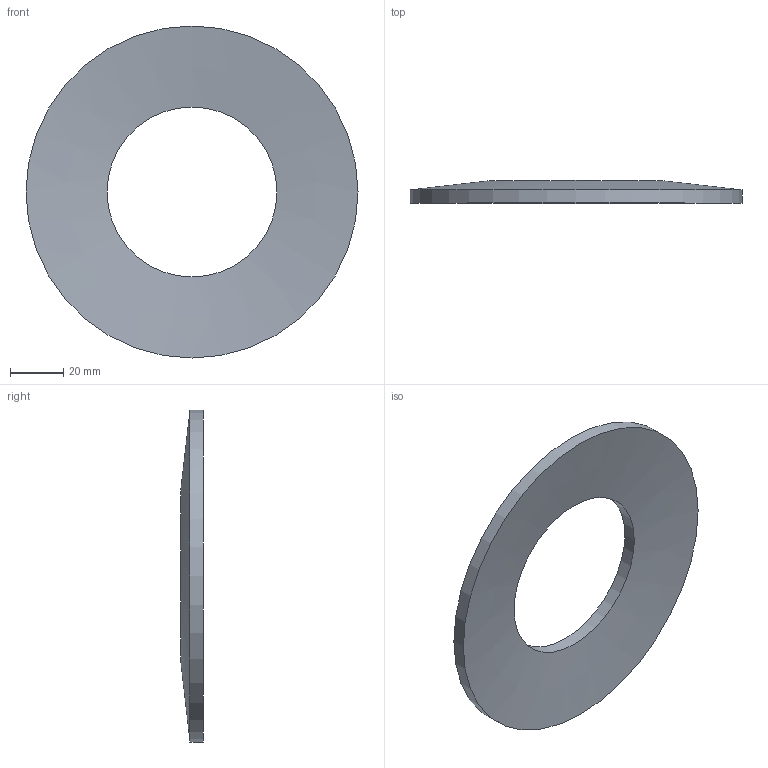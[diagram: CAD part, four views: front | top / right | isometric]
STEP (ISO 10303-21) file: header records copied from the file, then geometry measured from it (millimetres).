
FILE_DESCRIPTION(/* description */ ('29893N'),/* implementation_level */ '2;1');
FILE_NAME(/* name */ 'ST.1250.0640.0500.step',/* time_stamp */ '2026-09-18T10:34:48+02:00',/* author */ ('impex-ready.pl'),/* organization */ ('ST.1250.0640.0500'),/* preprocessor_version */ 'ST-DEVELOPER v20.1',/* originating_system */ 'Autodesk Inventor 2026',/* authorisation */ 'Ugiecie 0,75 h0 = 2.63');
FILE_SCHEMA (('AUTOMOTIVE_DESIGN { 1 0 10303 214 3 1 1 }'));
Length unit declared in the file: millimetre
Products named in the file (1): ST.1250.0640.0500
Bounding box: 125 x 8.5 x 125 mm (x, y, z)
Volume: 45566 mm3; surface area: 21214.3 mm2
Topology: 1 solids, 1 shells, 4 faces, 8 edges, 4 vertices
Faces by surface type: cone 2, cylinder 2
Full cylindrical faces by diameter (mm): 64 x1, 125 x1
Entity records: 151 total; most frequent: DIRECTION 22, CARTESIAN_POINT 17, ORIENTED_EDGE 16, AXIS2_PLACEMENT_3D 9, EDGE_CURVE 8, FACE_OUTER_BOUND 4, EDGE_LOOP 4, LINE 4
